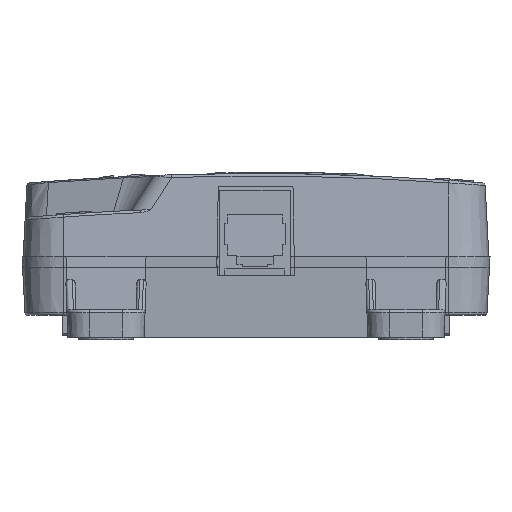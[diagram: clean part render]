
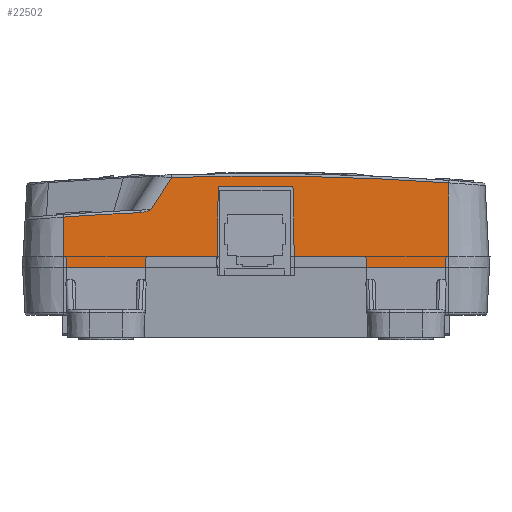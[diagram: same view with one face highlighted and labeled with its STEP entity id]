
A CAD part, left-side view. The second image highlights one B-rep face of the part: STEP entity #22502.
In plain terms, the highlighted planar face has unit normal (-0.999, 0, 0.052) as drawn and (0.999, 0, 0.052) by its records, which use the part's own axes.
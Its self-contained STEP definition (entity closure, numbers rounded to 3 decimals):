
#483=B_SPLINE_CURVE_WITH_KNOTS('',3,(#43850,#43851,#43852,#43853),
 .UNSPECIFIED.,.F.,.F.,(4,4),(0.,0.002),.UNSPECIFIED.);
#1236=ELLIPSE('',#24294,500.185,499.5);
#1237=ELLIPSE('',#24295,493.927,493.25);
#3726=ORIENTED_EDGE('',*,*,#9830,.T.);
#3727=ORIENTED_EDGE('',*,*,#9831,.T.);
#3728=ORIENTED_EDGE('',*,*,#9832,.T.);
#3729=ORIENTED_EDGE('',*,*,#9833,.T.);
#3730=ORIENTED_EDGE('',*,*,#9834,.T.);
#3731=ORIENTED_EDGE('',*,*,#9835,.T.);
#3732=ORIENTED_EDGE('',*,*,#9791,.F.);
#3733=ORIENTED_EDGE('',*,*,#9836,.T.);
#3734=ORIENTED_EDGE('',*,*,#9837,.T.);
#3735=ORIENTED_EDGE('',*,*,#9838,.T.);
#3736=ORIENTED_EDGE('',*,*,#9787,.F.);
#9787=EDGE_CURVE('',#12937,#12938,#14839,.T.);
#9791=EDGE_CURVE('',#12941,#12942,#14843,.T.);
#9830=EDGE_CURVE('',#12937,#12974,#14865,.F.);
#9831=EDGE_CURVE('',#12974,#12975,#1236,.T.);
#9832=EDGE_CURVE('',#12975,#12976,#14866,.T.);
#9833=EDGE_CURVE('',#12976,#12977,#483,.F.);
#9834=EDGE_CURVE('',#12977,#12978,#1237,.T.);
#9835=EDGE_CURVE('',#12978,#12942,#14867,.T.);
#9836=EDGE_CURVE('',#12941,#12979,#14868,.F.);
#9837=EDGE_CURVE('',#12979,#12980,#14869,.T.);
#9838=EDGE_CURVE('',#12980,#12938,#14870,.F.);
#12937=VERTEX_POINT('',#43750);
#12938=VERTEX_POINT('',#43752);
#12941=VERTEX_POINT('',#43758);
#12942=VERTEX_POINT('',#43760);
#12974=VERTEX_POINT('',#43845);
#12975=VERTEX_POINT('',#43847);
#12976=VERTEX_POINT('',#43849);
#12977=VERTEX_POINT('',#43854);
#12978=VERTEX_POINT('',#43856);
#12979=VERTEX_POINT('',#43859);
#12980=VERTEX_POINT('',#43861);
#14839=LINE('',#43751,#16903);
#14843=LINE('',#43759,#16907);
#14865=LINE('',#43844,#16929);
#14866=LINE('',#43848,#16930);
#14867=LINE('',#43857,#16931);
#14868=LINE('',#43858,#16932);
#14869=LINE('',#43860,#16933);
#14870=LINE('',#43862,#16934);
#16903=VECTOR('',#27312,1000.);
#16907=VECTOR('',#27316,1000.);
#16929=VECTOR('',#27384,1000.);
#16930=VECTOR('',#27387,1000.);
#16931=VECTOR('',#27390,1000.);
#16932=VECTOR('',#27391,1000.);
#16933=VECTOR('',#27392,1000.);
#16934=VECTOR('',#27393,1000.);
#18639=EDGE_LOOP('',(#3726,#3727,#3728,#3729,#3730,#3731,#3732,#3733,#3734,
#3735,#3736));
#20231=FACE_BOUND('',#18639,.T.);
#21620=PLANE('',#24293);
#22502=ADVANCED_FACE('',(#20231),#21620,.T.);
#24293=AXIS2_PLACEMENT_3D('',#43843,#27382,#27383);
#24294=AXIS2_PLACEMENT_3D('',#43846,#27385,#27386);
#24295=AXIS2_PLACEMENT_3D('',#43855,#27388,#27389);
#27312=DIRECTION('',(0.,-1.,0.));
#27316=DIRECTION('',(0.,-1.,0.));
#27382=DIRECTION('',(0.999,0.,0.052));
#27383=DIRECTION('',(0.052,0.,-0.999));
#27384=DIRECTION('',(0.052,0.,-0.999));
#27385=DIRECTION('',(0.999,0.,0.052));
#27386=DIRECTION('',(0.052,0.,-0.999));
#27387=DIRECTION('',(0.044,-0.544,-0.838));
#27388=DIRECTION('',(0.999,0.,0.052));
#27389=DIRECTION('',(0.052,0.,-0.999));
#27390=DIRECTION('',(0.052,0.,-0.999));
#27391=DIRECTION('',(0.052,-0.017,-0.998));
#27392=DIRECTION('',(0.,1.,0.));
#27393=DIRECTION('',(-0.052,-0.017,0.998));
#43750=CARTESIAN_POINT('',(61.65,35.295,0.));
#43751=CARTESIAN_POINT('',(61.65,0.,0.));
#43752=CARTESIAN_POINT('',(61.65,7.039,0.));
#43758=CARTESIAN_POINT('',(61.65,-7.179,0.));
#43759=CARTESIAN_POINT('',(61.65,0.,0.));
#43760=CARTESIAN_POINT('',(61.65,-35.295,0.));
#43843=CARTESIAN_POINT('',(61.65,0.,0.));
#43844=CARTESIAN_POINT('',(61.65,35.295,0.));
#43845=CARTESIAN_POINT('',(60.836,35.295,15.528));
#43846=CARTESIAN_POINT('',(86.948,0.,-482.724));
#43847=CARTESIAN_POINT('',(60.783,-15.432,16.538));
#43848=CARTESIAN_POINT('',(61.184,-20.392,8.889));
#43849=CARTESIAN_POINT('',(61.093,-19.267,10.624));
#43850=CARTESIAN_POINT('',(61.122,-21.209,10.07));
#43851=CARTESIAN_POINT('',(61.121,-20.528,10.099));
#43852=CARTESIAN_POINT('',(61.106,-19.893,10.375));
#43853=CARTESIAN_POINT('',(61.093,-19.267,10.624));
#43854=CARTESIAN_POINT('',(61.122,-21.209,10.07));
#43855=CARTESIAN_POINT('',(86.948,0.,-482.724));
#43856=CARTESIAN_POINT('',(61.165,-35.295,9.262));
#43857=CARTESIAN_POINT('',(61.65,-35.295,0.));
#43858=CARTESIAN_POINT('',(60.871,-6.919,14.871));
#43859=CARTESIAN_POINT('',(60.872,-6.92,14.84));
#43860=CARTESIAN_POINT('',(60.872,-6.92,14.84));
#43861=CARTESIAN_POINT('',(60.872,6.78,14.84));
#43862=CARTESIAN_POINT('',(60.871,6.779,14.871));
